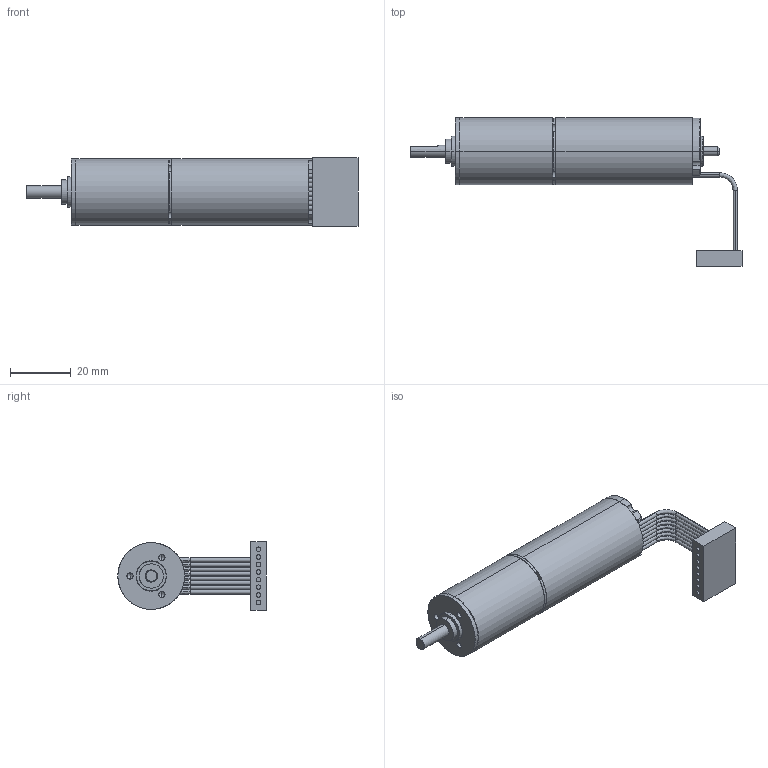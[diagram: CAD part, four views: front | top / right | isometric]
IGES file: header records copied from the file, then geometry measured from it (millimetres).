
Start section: SolidWorks IGES file using analytic representation for surfaces
Global section: file name: \\Uranus\R&D\plans\CATALOGUES\Topstock_Piece_IGES\ECMax22L_+_GP022C 2etages.IGS; native system: SolidWorks 2008; preprocessor: SolidWorks 2008; author: JUL; date: 090326.102620; units: millimetre
Bounding box: 109.3 x 48.8 x 22.4 mm (x, y, z)
Surface area: 10737.2 mm2 (no closed solid volume)
Topology: 0 solids, 0 shells, 206 faces, 2527 edges, 2507 vertices
Faces by surface type: revolution 157, bspline 49
